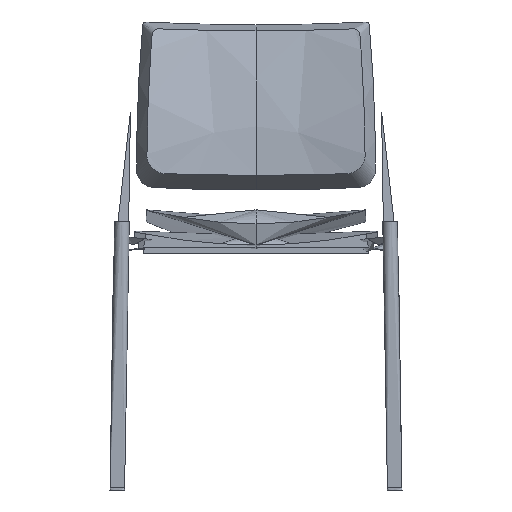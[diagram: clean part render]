
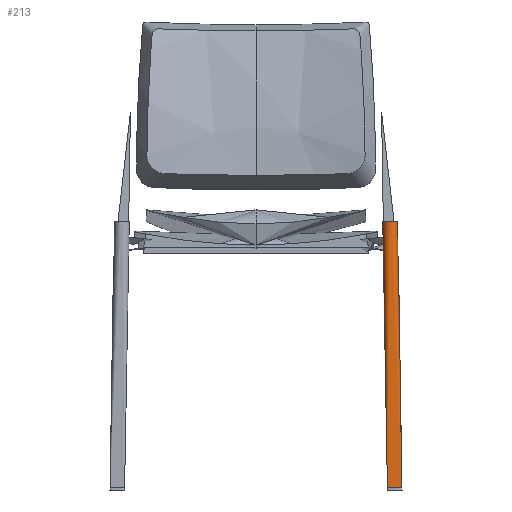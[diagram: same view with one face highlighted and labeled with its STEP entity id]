
A CAD part, front view. The second image highlights one B-rep face of the part: STEP entity #213.
In plain terms, the highlighted free-form (B-spline) face has degree [1, 2] with [2, 5] control points.
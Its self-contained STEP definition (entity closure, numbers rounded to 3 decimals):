
#21=(
BOUNDED_CURVE()
B_SPLINE_CURVE(2,(#4669,#4670,#4671,#4672,#4673),.UNSPECIFIED.,.F.,.F.)
B_SPLINE_CURVE_WITH_KNOTS((3,2,3),(-78.54,-58.905,
-39.27),.UNSPECIFIED.)
CURVE()
GEOMETRIC_REPRESENTATION_ITEM()
RATIONAL_B_SPLINE_CURVE((1.,0.707,1.,0.707,1.))
REPRESENTATION_ITEM('')
);
#22=(
BOUNDED_CURVE()
B_SPLINE_CURVE(1,(#4689,#4690),.UNSPECIFIED.,.F.,.F.)
B_SPLINE_CURVE_WITH_KNOTS((2,2),(4.217,460.),.UNSPECIFIED.)
CURVE()
GEOMETRIC_REPRESENTATION_ITEM()
RATIONAL_B_SPLINE_CURVE((1.,1.))
REPRESENTATION_ITEM('')
);
#23=(
BOUNDED_CURVE()
B_SPLINE_CURVE(1,(#4691,#4692),.UNSPECIFIED.,.F.,.F.)
B_SPLINE_CURVE_WITH_KNOTS((2,2),(3.783,460.),.UNSPECIFIED.)
CURVE()
GEOMETRIC_REPRESENTATION_ITEM()
RATIONAL_B_SPLINE_CURVE((1.,1.))
REPRESENTATION_ITEM('')
);
#114=(
BOUNDED_SURFACE()
B_SPLINE_SURFACE(1,2,((#4655,#4656,#4657,#4658,#4659),(#4660,#4661,#4662,
#4663,#4664)),.UNSPECIFIED.,.F.,.F.,.F.)
B_SPLINE_SURFACE_WITH_KNOTS((2,2),(3,2,3),(-1.,460.),(39.27,
58.905,78.54),.UNSPECIFIED.)
GEOMETRIC_REPRESENTATION_ITEM()
RATIONAL_B_SPLINE_SURFACE(((1.,0.707,1.,0.707,1.),
(1.,0.707,1.,0.707,1.)))
REPRESENTATION_ITEM('')
SURFACE()
);
#213=ADVANCED_FACE('',(#279),#114,.T.);
#279=FACE_OUTER_BOUND('',#345,.T.);
#345=EDGE_LOOP('',(#435,#436,#437,#438));
#435=ORIENTED_EDGE('',*,*,#650,.T.);
#436=ORIENTED_EDGE('',*,*,#647,.F.);
#437=ORIENTED_EDGE('',*,*,#649,.F.);
#438=ORIENTED_EDGE('',*,*,#648,.T.);
#647=EDGE_CURVE('',#815,#818,#21,.T.);
#648=EDGE_CURVE('',#816,#817,#781,.T.);
#649=EDGE_CURVE('',#816,#815,#22,.T.);
#650=EDGE_CURVE('',#817,#818,#23,.T.);
#781=B_SPLINE_CURVE_WITH_KNOTS('',3,(#4674,#4675,#4676,#4677,#4678,#4679,
#4680,#4681,#4682,#4683,#4684,#4685,#4686,#4687,#4688),.UNSPECIFIED.,.F.,
 .F.,(4,2,2,3,2,2,4),(0.,4.965,9.931,19.959,
29.984,34.948,39.913),.UNSPECIFIED.);
#815=VERTEX_POINT('',#4665);
#816=VERTEX_POINT('',#4666);
#817=VERTEX_POINT('',#4667);
#818=VERTEX_POINT('',#4668);
#4655=CARTESIAN_POINT('',(250.515,-206.017,-0.782));
#4656=CARTESIAN_POINT('',(250.515,-218.514,-0.511));
#4657=CARTESIAN_POINT('',(238.017,-218.519,-0.728));
#4658=CARTESIAN_POINT('',(225.519,-218.524,-0.945));
#4659=CARTESIAN_POINT('',(225.519,-206.026,-1.217));
#4660=CARTESIAN_POINT('',(242.498,-195.995,460.217));
#4661=CARTESIAN_POINT('',(242.498,-208.492,460.489));
#4662=CARTESIAN_POINT('',(230.,-208.497,460.272));
#4663=CARTESIAN_POINT('',(217.502,-208.502,460.054));
#4664=CARTESIAN_POINT('',(217.502,-196.005,459.783));
#4665=CARTESIAN_POINT('',(217.502,-196.005,459.783));
#4666=CARTESIAN_POINT('',(225.429,-205.913,4.));
#4667=CARTESIAN_POINT('',(250.432,-205.913,4.));
#4668=CARTESIAN_POINT('',(242.498,-195.995,460.217));
#4669=CARTESIAN_POINT('',(217.502,-196.005,459.783));
#4670=CARTESIAN_POINT('',(217.502,-208.502,460.054));
#4671=CARTESIAN_POINT('',(230.,-208.497,460.272));
#4672=CARTESIAN_POINT('',(242.498,-208.492,460.489));
#4673=CARTESIAN_POINT('',(242.498,-195.995,460.217));
#4674=CARTESIAN_POINT('',(225.429,-205.913,4.));
#4675=CARTESIAN_POINT('',(225.429,-207.555,4.));
#4676=CARTESIAN_POINT('',(225.753,-209.181,4.));
#4677=CARTESIAN_POINT('',(227.011,-212.215,4.));
#4678=CARTESIAN_POINT('',(227.932,-213.593,4.));
#4679=CARTESIAN_POINT('',(231.439,-217.098,4.));
#4680=CARTESIAN_POINT('',(234.619,-218.416,4.));
#4681=CARTESIAN_POINT('',(237.935,-218.416,4.));
#4682=CARTESIAN_POINT('',(241.251,-218.416,4.));
#4683=CARTESIAN_POINT('',(244.43,-217.099,4.));
#4684=CARTESIAN_POINT('',(247.935,-213.592,4.));
#4685=CARTESIAN_POINT('',(248.855,-212.214,4.));
#4686=CARTESIAN_POINT('',(250.11,-209.181,4.));
#4687=CARTESIAN_POINT('',(250.433,-207.555,4.));
#4688=CARTESIAN_POINT('',(250.432,-205.913,4.));
#4689=CARTESIAN_POINT('',(225.429,-205.913,4.));
#4690=CARTESIAN_POINT('',(217.502,-196.005,459.783));
#4691=CARTESIAN_POINT('',(250.432,-205.913,4.));
#4692=CARTESIAN_POINT('',(242.498,-195.995,460.217));
